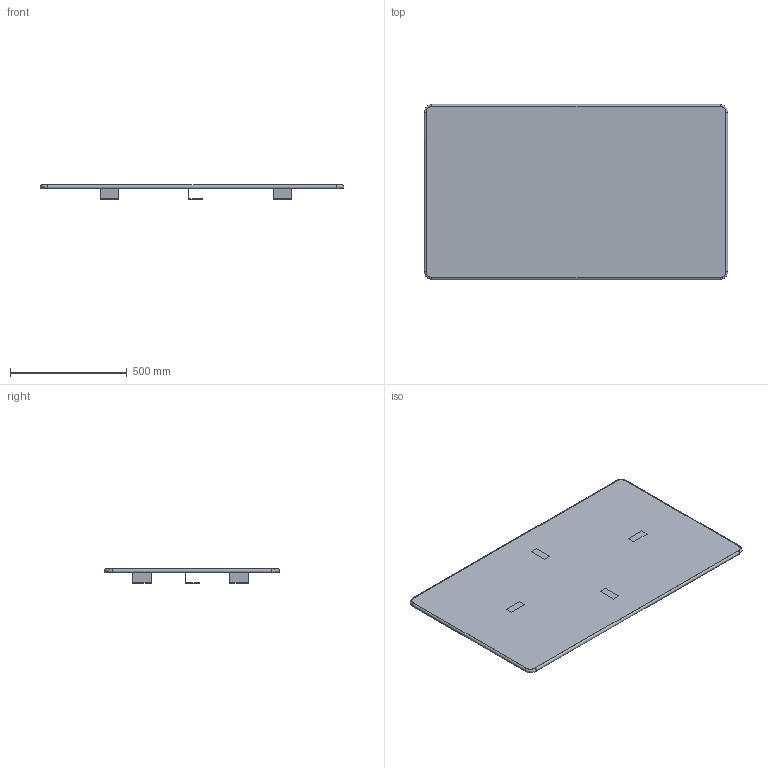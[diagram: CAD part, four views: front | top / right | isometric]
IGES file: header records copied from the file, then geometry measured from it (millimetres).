
Start section: SolidWorks IGES file using NURBS representation for surfaces
Global section: file name: G:\VICCARBE\PRODUCTOS\26-PANELES LAYER\04-MODELADOS (PLANOS)\especiales para 3D\VICCARBE_LayerPanel_1300x750d25.IGS; native system: SolidWorks 2009; preprocessor: SolidWorks 2009; author: RUBEN; date: 110906.115820; units: millimetre
Bounding box: 1301 x 751 x 60.5 mm (x, y, z)
Surface area: 2298875.4 mm2 (no closed solid volume)
Topology: 0 solids, 0 shells, 63 faces, 424 edges, 424 vertices
Faces by surface type: bspline 63
